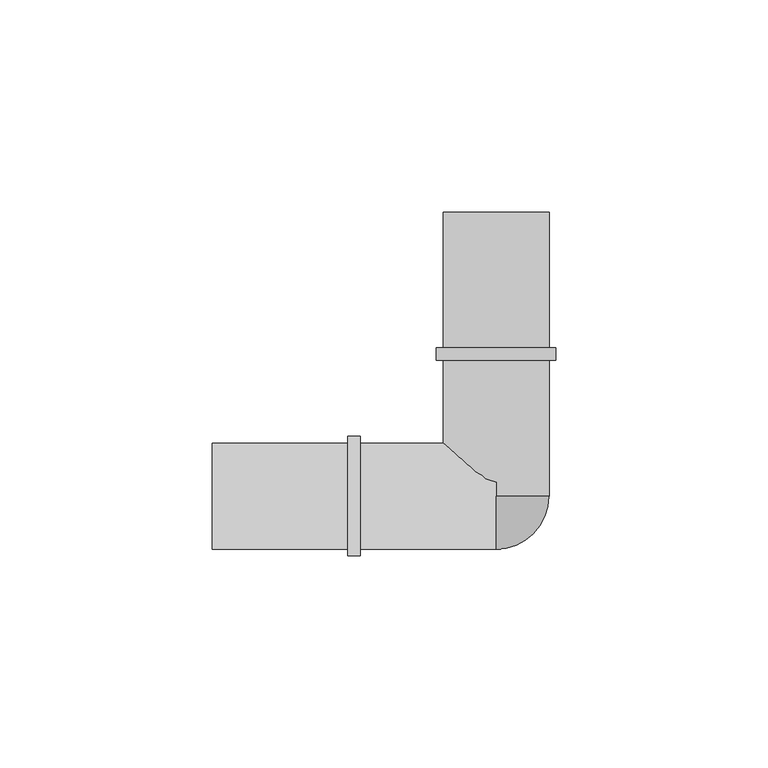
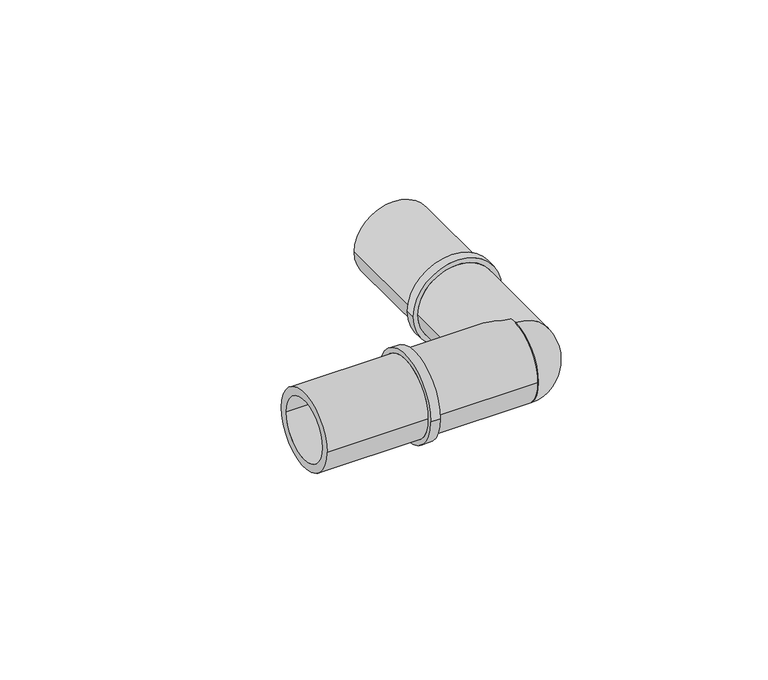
"""IFC4 building model written with IfcOpenShell, lengths in millimetres: pipe fitting geometry, FASTLOC_Corner LX : FSL C LX PL."""

import ifcopenshell
import ifcopenshell.guid

model = None  # the IFC model being written
_history = None  # IfcOwnerHistory: only IFC2X3 demands one
_inside = {}  # id of a spatial element -> (the spatial element, [elements in it])
_under = {}  # id of a project, library or spatial element -> (it, [spatial elements below it])
_declared = {}  # id of a project -> (the project, [libraries it declares])
_typed = {}  # id of a type object -> (the type object, [elements of that type])
_made_of = {}  # id of a material, layer set ... -> (it, [elements and type objects made of it])


def new_model(schema):
    """Start an empty IFC model of exactly this schema.

    Asked for "IFC4X3", IfcOpenShell would pick the latest addendum, in which some entities
    have other attributes; the version numbers below select the first issue.
    IFC2X3 requires an IfcOwnerHistory on every rooted entity: one is made here for all.
    """
    global model, _history
    if schema == "IFC4X3":
        model = ifcopenshell.file(schema_version=(4, 3, 0, 0))
    else:
        model = ifcopenshell.file(schema=schema)
    _inside.clear()
    _under.clear()
    _declared.clear()
    _typed.clear()
    _made_of.clear()
    _history = None
    if model.schema == "IFC2X3":
        org = make("IfcOrganization", Name="unknown")
        user = make(
            "IfcPersonAndOrganization",
            ThePerson=make("IfcPerson", FamilyName="unknown"),
            TheOrganization=org,
        )
        app = make(
            "IfcApplication",
            ApplicationDeveloper=org,
            Version="unknown",
            ApplicationFullName="unknown",
            ApplicationIdentifier="unknown",
        )
        _history = make(
            "IfcOwnerHistory",
            OwningUser=user,
            OwningApplication=app,
            ChangeAction="ADDED",
            CreationDate=0,
        )
    return model


def make(cls, **values):
    """One entity of the class cls with the attributes given. An attribute that is None is left unset."""
    return model.create_entity(
        cls, **{name: value for name, value in values.items() if value is not None}
    )


def rooted(cls, **values):
    """An entity with a GlobalId (a new one), such as an element, a storey or a relation."""
    return make(cls, GlobalId=ifcopenshell.guid.new(), OwnerHistory=_history, **values)


def si_unit(unit_type, name, prefix=None):
    """IfcSIUnit, for example si_unit("LENGTHUNIT", "METRE", prefix="MILLI")."""
    return make("IfcSIUnit", UnitType=unit_type, Prefix=prefix, Name=name)


def assignment(units):
    """IfcUnitAssignment: the units of a project."""
    return None if units is None else make("IfcUnitAssignment", Units=units)


def point(xyz):
    """IfcCartesianPoint."""
    return None if xyz is None else make("IfcCartesianPoint", Coordinates=xyz)


def direction(xyz):
    """IfcDirection."""
    return None if xyz is None else make("IfcDirection", DirectionRatios=xyz)


def frame(location, z_axis=None, x_axis=None):
    """IfcAxis2Placement3D, a coordinate frame: its origin and axes. An axis left out is left unset."""
    return make(
        "IfcAxis2Placement3D",
        Location=point(location),
        Axis=direction(z_axis),
        RefDirection=direction(x_axis),
    )


def origin():
    """The frame at (0, 0, 0) with its axes left unset."""
    return frame((0.0, 0.0, 0.0))


def place(relative_to, where):
    """IfcLocalPlacement: puts the frame where relative to a parent placement (None: the world)."""
    return make(
        "IfcLocalPlacement", PlacementRelTo=relative_to, RelativePlacement=where
    )


def context(
    kind, dimensions, precision=None, world=None, true_north=None, identifier=None
):
    """IfcGeometricRepresentationContext, for example the 3D "Model" context."""
    return make(
        "IfcGeometricRepresentationContext",
        ContextIdentifier=identifier,
        ContextType=kind,
        CoordinateSpaceDimension=dimensions,
        Precision=precision,
        WorldCoordinateSystem=world,
        TrueNorth=true_north,
    )


def project(units=None, contexts=None):
    """IfcProject with its units and contexts."""
    return rooted(
        "IfcProject",
        Name="project",
        RepresentationContexts=contexts,
        UnitsInContext=assignment(units),
    )


def spatial(cls, under=None, at=None, **own):
    """A site, building, storey or space (cls), placed at a placement, below another one or the project."""
    s = rooted(cls, ObjectPlacement=at, **own)
    if under is not None:
        _under.setdefault(under.id(), (under, []))[1].append(s)
    return s


def polyline(points):
    """IfcPolyline through the points."""
    return make("IfcPolyline", Points=[point(p) for p in points])


def circle_curve(where, radius):
    """IfcCircle in the frame where."""
    return make("IfcCircle", Position=where, Radius=radius)


def ellipse_curve(where, semi_axis1, semi_axis2):
    """IfcEllipse in the frame where."""
    return make(
        "IfcEllipse", Position=where, SemiAxis1=semi_axis1, SemiAxis2=semi_axis2
    )


def trimmed(basis, trim1, trim2, sense, master):
    """IfcTrimmedCurve: the piece of a basis curve between two trims."""
    return make(
        "IfcTrimmedCurve",
        BasisCurve=basis,
        Trim1=trim1,
        Trim2=trim2,
        SenseAgreement=sense,
        MasterRepresentation=master,
    )


def shape(context_of_items, identifier, shape_type, items):
    """IfcShapeRepresentation: the items that make up one representation, for example the "Body"."""
    return make(
        "IfcShapeRepresentation",
        ContextOfItems=context_of_items,
        RepresentationIdentifier=identifier,
        RepresentationType=shape_type,
        Items=items,
    )


def source(mapping_origin, context_of_items, identifier, shape_type, items):
    """IfcRepresentationMap: a shape defined once, which mapped items show again and again."""
    return make(
        "IfcRepresentationMap",
        MappingOrigin=mapping_origin,
        MappedRepresentation=shape(context_of_items, identifier, shape_type, items),
    )


def transform(
    local_origin,
    x_axis=None,
    y_axis=None,
    z_axis=None,
    scale=None,
    scale2=None,
    scale3=None,
    uniform=True,
):
    """IfcCartesianTransformationOperator3D, or its non-uniform kind. x_axis, y_axis, z_axis: its Axis1, 2, 3."""
    if uniform:
        return make(
            "IfcCartesianTransformationOperator3D",
            Axis1=direction(x_axis),
            Axis2=direction(y_axis),
            LocalOrigin=point(local_origin),
            Scale=scale,
            Axis3=direction(z_axis),
        )
    return make(
        "IfcCartesianTransformationOperator3DnonUniform",
        Axis1=direction(x_axis),
        Axis2=direction(y_axis),
        LocalOrigin=point(local_origin),
        Scale=scale,
        Axis3=direction(z_axis),
        Scale2=scale2,
        Scale3=scale3,
    )


def mapped(mapping_source, mapping_target):
    """IfcMappedItem: shows the shape of a source again, moved by a transform."""
    return make(
        "IfcMappedItem", MappingSource=mapping_source, MappingTarget=mapping_target
    )


def made_of(thing, what):
    """Note that an element or type object is made of a material, layer set ...; save() writes the relation."""
    if what is not None:
        _made_of.setdefault(what.id(), (what, []))[1].append(thing)
    return thing


def element(
    cls,
    number,
    at=None,
    inside=None,
    cuts=None,
    type_object=None,
    material=None,
    context=None,
    identifier="Body",
    shape_type=None,
    held_by="IfcProductDefinitionShape",
    body=None,
    shapes=None,
    **own,
):
    """One element of the class cls, such as IfcWall. Its Tag is "e" and its number.

    at: its placement. inside: the storey or other place that contains it. cuts: it is an
    opening in that element (IfcRelVoidsElement). A single representation is given by context,
    identifier, shape_type and body (its items); several are given by shapes. held_by: the class
    of the entity that holds the representations. save() writes the other relations.
    """
    e = rooted(cls, Tag="e%d" % number, ObjectPlacement=at, **own)
    if body is not None:
        shapes = [shape(context, identifier, shape_type, body)]
    if shapes is not None:
        e.Representation = make(held_by, Representations=shapes)
    if inside is not None:
        _inside.setdefault(inside.id(), (inside, []))[1].append(e)
    if cuts is not None:
        rooted(
            "IfcRelVoidsElement", RelatingBuildingElement=cuts, RelatedOpeningElement=e
        )
    if type_object is not None:
        _typed.setdefault(type_object.id(), (type_object, []))[1].append(e)
    return made_of(e, material)


def aggregate(whole, parts):
    """IfcRelAggregates: a whole, such as a stair, and the parts it consists of."""
    return rooted("IfcRelAggregates", RelatingObject=whole, RelatedObjects=parts)


def save(model, path):
    """Write the relations noted so far, then the file.

    IfcRelAggregates (storeys below a building ...), IfcRelContainedInSpatialStructure (elements
    in a storey), IfcRelDefinesByType, IfcRelAssociatesMaterial and IfcRelDeclares: one each for
    every whole, place, type object, material and project.
    """
    for whole, parts in _under.values():
        aggregate(whole, parts)
    for where, things in _inside.values():
        rooted(
            "IfcRelContainedInSpatialStructure",
            RelatedElements=things,
            RelatingStructure=where,
        )
    for kind, things in _typed.values():
        rooted("IfcRelDefinesByType", RelatedObjects=things, RelatingType=kind)
    for what, things in _made_of.values():
        rooted("IfcRelAssociatesMaterial", RelatedObjects=things, RelatingMaterial=what)
    for by, libraries in _declared.values():
        rooted("IfcRelDeclares", RelatingContext=by, RelatedDefinitions=libraries)
    model.write(path)


def plane_surface(at):
    """IfcPlane: the flat surface through the origin of the frame at, square to its z axis."""
    return make("IfcPlane", Position=at)


def cylinder_surface(at, radius):
    """IfcCylindricalSurface: all points at the distance radius from the z axis of the frame at."""
    return make("IfcCylindricalSurface", Position=at, Radius=radius)


def revolved_surface(curve, axis_point, axis_direction):
    """IfcSurfaceOfRevolution: the curve turned about the line through axis_point along axis_direction."""
    return make(
        "IfcSurfaceOfRevolution",
        SweptCurve=make("IfcArbitraryOpenProfileDef", ProfileType="CURVE", Curve=curve),
        AxisPosition=make("IfcAxis1Placement", Location=point(axis_point), Axis=direction(axis_direction)),
    )


def advanced_brep(points, edges, surfaces, faces):
    """IfcAdvancedBrep: a solid bounded by faces that lie on surfaces and meet in shared edges.

    An edge is (start, end): straight between two places in points (the first is 0);
    or (start, end, curve); or (start, end, curve, False) where it runs against its curve.
    A face is (place in surfaces, loops), or (place, loops, False) where it looks against
    its surface's normal. A loop lists edges by number (the first is 1), with a minus sign
    where the edge is run from its end to its start. The first loop is the outer one.
    """
    corners = [point(p) for p in points]
    vertices = [make("IfcVertexPoint", VertexGeometry=c) for c in corners]
    made = []
    for start, end, *more in edges:
        made.append(
            make(
                "IfcEdgeCurve",
                EdgeStart=vertices[start],
                EdgeEnd=vertices[end],
                EdgeGeometry=more[0] if more else make("IfcPolyline", Points=[corners[start], corners[end]]),
                SameSense=more[1] if len(more) > 1 else True,
            )
        )
    hull = []
    for where, loops, *sense in faces:
        bounds = []
        for j, loop in enumerate(loops):
            ring = [make("IfcOrientedEdge", EdgeElement=made[abs(k) - 1], Orientation=k > 0) for k in loop]
            bounds.append(
                make(
                    "IfcFaceOuterBound" if j == 0 else "IfcFaceBound",
                    Bound=make("IfcEdgeLoop", EdgeList=ring),
                    Orientation=True,
                )
            )
        hull.append(make("IfcAdvancedFace", Bounds=bounds, FaceSurface=surfaces[where], SameSense=sense[0] if sense else True))
    return make("IfcAdvancedBrep", Outer=make("IfcClosedShell", CfsFaces=hull))


def pipe_fitting_8c837d00(model_context):
    return source(origin(), model_context, "Body", "AdvancedBrep", [
        advanced_brep(
        [(0.0, 0.0, 12.5), (0.0, 0.0, 0.0), (0.0, -12.5, 0.0), (0.0, 0.0, -12.5)],
        [
            (0, 1),
            (1, 2),
            (2, 0, circle_curve(frame((0.0, 0.0, 0.0), z_axis=(-1.0, 0.0, 0.0), x_axis=(0.0, 0.0, 1.0)), 12.5)),
            (3, 2, circle_curve(frame((0.0, 0.0, 0.0), z_axis=(-1.0, 0.0, 0.0), x_axis=(0.0, 0.0, -1.0)), 12.5)),
            (1, 3),
            (0, 3, circle_curve(frame((0.0, 0.0, 0.0), z_axis=(0.0, 1.0, 0.0), x_axis=(0.0, 0.0, 1.0)), 12.5)),
        ],
        [
            plane_surface(frame((0.0, 0.0, 0.0), z_axis=(-1.0, 0.0, 0.0), x_axis=(0.0, 0.0, 1.0))),
            plane_surface(frame((0.0, 0.0, 0.0), z_axis=(-1.0, 0.0, 0.0), x_axis=(0.0, 0.0, -1.0))),
            plane_surface(frame((0.0, 0.0, 0.0), z_axis=(0.0, 1.0, 0.0), x_axis=(0.0, 0.0, 1.0))),
            revolved_surface(trimmed(ellipse_curve(frame((0.0, 0.0, 0.0), z_axis=(-1.0, 0.0, 0.0), x_axis=(0.0, 0.0, 1.0)), 12.5, 12.5), [point((0.0, -12.5, 0.0))], [point((0.0, 0.0, 12.5))], True, "CARTESIAN"), (0.0, 0.0, 0.0), (0.0, 1.0, 0.0)),
        ],
        [
            (0, [[1, 2, 3]]),
            (1, [[4, -2, 5]]),
            (2, [[-1, 6, -5]]),
            (3, [[-6, -3, -4]]),
        ],
    ),
        advanced_brep(
        [(-67.0, 9.85, 0.0), (-67.0, -9.85, 0.0), (0.0, -9.85, 0.0), (0.0, 9.85, 0.0), (-35.0, 12.5, 0.0), (-35.0, -12.5, 0.0), (-67.0, -12.5, 0.0), (-67.0, 12.5, 0.0), (-32.0, 14.1, 0.0), (-32.0, -14.1, 0.0), (-35.0, -14.1, 0.0), (-35.0, 14.1, 0.0), (0.0, 12.5, 0.0), (0.0, -12.5, 0.0), (-32.0, -12.5, 0.0), (-32.0, 12.5, 0.0)],
        [
            (0, 1, circle_curve(frame((-67.0, 0.0, 0.0), z_axis=(-1.0, 0.0, 0.0), x_axis=(0.0, -1.0, 0.0)), 9.85)),
            (1, 2),
            (2, 3, circle_curve(frame((0.0, 0.0, 0.0), z_axis=(1.0, 0.0, 0.0), x_axis=(0.0, -1.0, 0.0)), 9.85)),
            (3, 0),
            (4, 5, circle_curve(frame((-35.0, 0.0, 0.0), z_axis=(-1.0, 0.0, 0.0), x_axis=(0.0, -1.0, 0.0)), 12.5)),
            (5, 6),
            (6, 7, circle_curve(frame((-67.0, 0.0, 0.0), z_axis=(1.0, 0.0, 0.0), x_axis=(0.0, -1.0, 0.0)), 12.5)),
            (7, 4),
            (8, 9, circle_curve(frame((-32.0, 0.0, 0.0), z_axis=(-1.0, 0.0, 0.0), x_axis=(0.0, -1.0, 0.0)), 14.1)),
            (9, 10),
            (10, 11, circle_curve(frame((-35.0, 0.0, 0.0), z_axis=(1.0, 0.0, 0.0), x_axis=(0.0, -1.0, 0.0)), 14.1)),
            (11, 8),
            (12, 13, circle_curve(frame((0.0, 0.0, 0.0), z_axis=(-1.0, 0.0, 0.0), x_axis=(0.0, -1.0, 0.0)), 12.5)),
            (13, 14),
            (14, 15, circle_curve(frame((-32.0, 0.0, 0.0), z_axis=(1.0, 0.0, 0.0), x_axis=(0.0, -1.0, 0.0)), 12.5)),
            (15, 12),
            (1, 0, circle_curve(frame((-67.0, 0.0, 0.0), z_axis=(-1.0, 0.0, 0.0), x_axis=(0.0, 1.0, 0.0)), 9.85)),
            (3, 2, circle_curve(frame((0.0, 0.0, 0.0), z_axis=(1.0, 0.0, 0.0), x_axis=(0.0, 1.0, 0.0)), 9.85)),
            (6, 7, circle_curve(frame((-67.0, 0.0, 0.0), z_axis=(-1.0, 0.0, 0.0), x_axis=(0.0, 1.0, 0.0)), 12.5)),
            (5, 4, circle_curve(frame((-35.0, 0.0, 0.0), z_axis=(-1.0, 0.0, 0.0), x_axis=(0.0, 1.0, 0.0)), 12.5)),
            (10, 11, circle_curve(frame((-35.0, 0.0, 0.0), z_axis=(-1.0, 0.0, 0.0), x_axis=(0.0, 1.0, 0.0)), 14.1)),
            (9, 8, circle_curve(frame((-32.0, 0.0, 0.0), z_axis=(-1.0, 0.0, 0.0), x_axis=(0.0, 1.0, 0.0)), 14.1)),
            (14, 15, circle_curve(frame((-32.0, 0.0, 0.0), z_axis=(-1.0, 0.0, 0.0), x_axis=(0.0, 1.0, 0.0)), 12.5)),
            (13, 12, circle_curve(frame((0.0, 0.0, 0.0), z_axis=(-1.0, 0.0, 0.0), x_axis=(0.0, 1.0, 0.0)), 12.5)),
        ],
        [
            revolved_surface(polyline([(0.0, -9.85, 0.0), (-67.0, -9.85, 0.0)]), (0.0, 0.0, 0.0), (1.0, 0.0, 0.0)),
            cylinder_surface(frame((0.0, 0.0, 0.0), z_axis=(1.0, 0.0, 0.0), x_axis=(0.0, -1.0, 0.0)), 12.5),
            cylinder_surface(frame((0.0, 0.0, 0.0), z_axis=(1.0, 0.0, 0.0), x_axis=(0.0, -1.0, 0.0)), 14.1),
            revolved_surface(polyline([(0.0, 9.85, 0.0), (-67.0, 9.85, 0.0)]), (0.0, 0.0, 0.0), (1.0, 0.0, 0.0)),
            plane_surface(frame((-67.0, 0.0, 0.0), z_axis=(-1.0, 0.0, 0.0), x_axis=(0.0, 1.0, 0.0))),
            cylinder_surface(frame((0.0, 0.0, 0.0), z_axis=(1.0, 0.0, 0.0), x_axis=(0.0, 1.0, 0.0)), 12.5),
            plane_surface(frame((-35.0, 0.0, 0.0), z_axis=(-1.0, 0.0, 0.0), x_axis=(0.0, 1.0, 0.0))),
            cylinder_surface(frame((0.0, 0.0, 0.0), z_axis=(1.0, 0.0, 0.0), x_axis=(0.0, 1.0, 0.0)), 14.1),
            plane_surface(frame((-32.0, 0.0, 0.0), z_axis=(1.0, 0.0, 0.0), x_axis=(0.0, 1.0, 0.0))),
            plane_surface(frame((0.0, 0.0, 0.0), z_axis=(1.0, 0.0, 0.0), x_axis=(0.0, 1.0, 0.0))),
        ],
        [
            (0, [[1, 2, 3, 4]]),
            (1, [[5, 6, 7, 8]]),
            (2, [[9, 10, 11, 12]]),
            (1, [[13, 14, 15, 16]]),
            (3, [[17, -4, 18, -2]]),
            (4, [[19, -7], [-17, -1]]),
            (5, [[20, -8, -19, -6]]),
            (6, [[21, -11], [-20, -5]]),
            (7, [[22, -12, -21, -10]]),
            (8, [[-22, -9], [23, -15]]),
            (5, [[24, -16, -23, -14]]),
            (9, [[-24, -13], [-18, -3]]),
        ],
    ),
        advanced_brep(
        [(9.85, 67.0, 0.0), (-9.85, 67.0, 0.0), (-9.85, 0.0, 0.0), (9.85, 0.0, 0.0), (12.5, 35.0, 0.0), (-12.5, 35.0, 0.0), (-12.5, 67.0, 0.0), (12.5, 67.0, 0.0), (14.1, 32.0, 0.0), (-14.1, 32.0, 0.0), (-14.1, 35.0, 0.0), (14.1, 35.0, 0.0), (12.5, 0.0, 0.0), (-12.5, 0.0, 0.0), (-12.5, 32.0, 0.0), (12.5, 32.0, 0.0)],
        [
            (0, 1, circle_curve(frame((0.0, 67.0, 0.0), z_axis=(0.0, 1.0, 0.0), x_axis=(-1.0, 0.0, 0.0)), 9.85)),
            (1, 2),
            (2, 3, circle_curve(frame((0.0, 0.0, 0.0), z_axis=(0.0, -1.0, 0.0), x_axis=(-1.0, 0.0, 0.0)), 9.85)),
            (3, 0),
            (4, 5, circle_curve(frame((0.0, 35.0, 0.0), z_axis=(0.0, 1.0, 0.0), x_axis=(-1.0, 0.0, 0.0)), 12.5)),
            (5, 6),
            (6, 7, circle_curve(frame((0.0, 67.0, 0.0), z_axis=(0.0, -1.0, 0.0), x_axis=(-1.0, 0.0, 0.0)), 12.5)),
            (7, 4),
            (8, 9, circle_curve(frame((0.0, 32.0, 0.0), z_axis=(0.0, 1.0, 0.0), x_axis=(-1.0, 0.0, 0.0)), 14.1)),
            (9, 10),
            (10, 11, circle_curve(frame((0.0, 35.0, 0.0), z_axis=(0.0, -1.0, 0.0), x_axis=(-1.0, 0.0, 0.0)), 14.1)),
            (11, 8),
            (12, 13, circle_curve(frame((0.0, 0.0, 0.0), z_axis=(0.0, 1.0, 0.0), x_axis=(-1.0, 0.0, 0.0)), 12.5)),
            (13, 14),
            (14, 15, circle_curve(frame((0.0, 32.0, 0.0), z_axis=(0.0, -1.0, 0.0), x_axis=(-1.0, 0.0, 0.0)), 12.5)),
            (15, 12),
            (1, 0, circle_curve(frame((0.0, 67.0, 0.0), z_axis=(0.0, 1.0, 0.0), x_axis=(1.0, 0.0, 0.0)), 9.85)),
            (3, 2, circle_curve(frame((0.0, 0.0, 0.0), z_axis=(0.0, -1.0, 0.0), x_axis=(1.0, 0.0, 0.0)), 9.85)),
            (6, 7, circle_curve(frame((0.0, 67.0, 0.0), z_axis=(0.0, 1.0, 0.0), x_axis=(1.0, 0.0, 0.0)), 12.5)),
            (5, 4, circle_curve(frame((0.0, 35.0, 0.0), z_axis=(0.0, 1.0, 0.0), x_axis=(1.0, 0.0, 0.0)), 12.5)),
            (10, 11, circle_curve(frame((0.0, 35.0, 0.0), z_axis=(0.0, 1.0, 0.0), x_axis=(1.0, 0.0, 0.0)), 14.1)),
            (9, 8, circle_curve(frame((0.0, 32.0, 0.0), z_axis=(0.0, 1.0, 0.0), x_axis=(1.0, 0.0, 0.0)), 14.1)),
            (14, 15, circle_curve(frame((0.0, 32.0, 0.0), z_axis=(0.0, 1.0, 0.0), x_axis=(1.0, 0.0, 0.0)), 12.5)),
            (13, 12, circle_curve(frame((0.0, 0.0, 0.0), z_axis=(0.0, 1.0, 0.0), x_axis=(1.0, 0.0, 0.0)), 12.5)),
        ],
        [
            revolved_surface(polyline([(-9.85, 0.0, 0.0), (-9.85, 67.0, 0.0)]), (0.0, 0.0, 0.0), (0.0, -1.0, 0.0)),
            cylinder_surface(frame((0.0, 0.0, 0.0), z_axis=(0.0, -1.0, 0.0), x_axis=(-1.0, 0.0, 0.0)), 12.5),
            cylinder_surface(frame((0.0, 0.0, 0.0), z_axis=(0.0, -1.0, 0.0), x_axis=(-1.0, 0.0, 0.0)), 14.1),
            revolved_surface(polyline([(9.85, 0.0, 0.0), (9.85, 67.0, 0.0)]), (0.0, 0.0, 0.0), (0.0, -1.0, 0.0)),
            plane_surface(frame((0.0, 67.0, 0.0), z_axis=(0.0, 1.0, 0.0), x_axis=(1.0, 0.0, 0.0))),
            cylinder_surface(frame((0.0, 0.0, 0.0), z_axis=(0.0, -1.0, 0.0), x_axis=(1.0, 0.0, 0.0)), 12.5),
            plane_surface(frame((0.0, 35.0, 0.0), z_axis=(0.0, 1.0, 0.0), x_axis=(1.0, 0.0, 0.0))),
            cylinder_surface(frame((0.0, 0.0, 0.0), z_axis=(0.0, -1.0, 0.0), x_axis=(1.0, 0.0, 0.0)), 14.1),
            plane_surface(frame((0.0, 32.0, 0.0), z_axis=(0.0, -1.0, 0.0), x_axis=(1.0, 0.0, 0.0))),
            plane_surface(frame((0.0, 0.0, 0.0), z_axis=(0.0, -1.0, 0.0), x_axis=(1.0, 0.0, 0.0))),
        ],
        [
            (0, [[1, 2, 3, 4]]),
            (1, [[5, 6, 7, 8]]),
            (2, [[9, 10, 11, 12]]),
            (1, [[13, 14, 15, 16]]),
            (3, [[17, -4, 18, -2]]),
            (4, [[19, -7], [-17, -1]]),
            (5, [[20, -8, -19, -6]]),
            (6, [[21, -11], [-20, -5]]),
            (7, [[22, -12, -21, -10]]),
            (8, [[-22, -9], [23, -15]]),
            (5, [[24, -16, -23, -14]]),
            (9, [[-24, -13], [-18, -3]]),
        ],
    ),
    ])


if __name__ == "__main__":
    model = new_model("IFC4")
    model_context = context("Model", 3, world=origin())
    ifc_project = project(units=[si_unit("LENGTHUNIT", "METRE", prefix="MILLI")], contexts=[model_context])
    site = spatial("IfcSite", under=ifc_project)
    building = spatial("IfcBuilding", under=site)
    placement = place(None, origin())
    pipe_fitting_shape = pipe_fitting_8c837d00(model_context)
    element("IfcPipeFitting", 1, ObjectType="FASTLOC_Corner LX : FSL C LX PL", at=placement, inside=building, context=model_context, shape_type="MappedRepresentation", body=[
        mapped(pipe_fitting_shape, transform((0.0, 0.0, 0.0), x_axis=(1.0, 0.0, 0.0), y_axis=(0.0, 1.0, 0.0), z_axis=(0.0, 0.0, 1.0))),
    ])
    save(model, "model.ifc")
